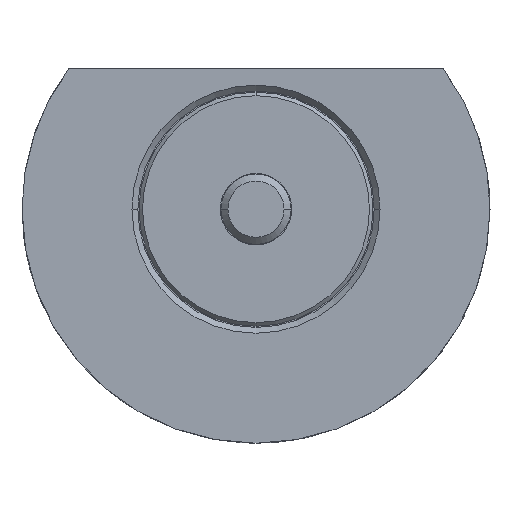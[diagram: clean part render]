
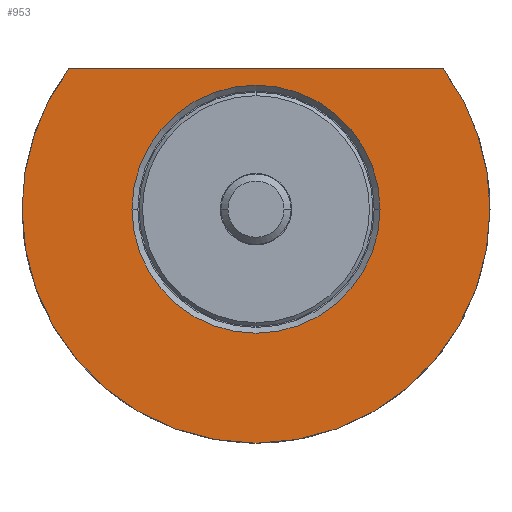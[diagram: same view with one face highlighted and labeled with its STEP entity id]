
A CAD part, front view. The second image highlights one B-rep face of the part: STEP entity #953.
In plain terms, the highlighted planar face has unit normal (0, -1, 0).
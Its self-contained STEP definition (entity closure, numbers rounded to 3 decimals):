
#20 = DIRECTION ( 'NONE',  ( -1., 0., 0. ) ) ;
#26 = VERTEX_POINT ( 'NONE', #725 ) ;
#60 = CIRCLE ( 'NONE', #222, 20. ) ;
#68 = VERTEX_POINT ( 'NONE', #1115 ) ;
#95 = DIRECTION ( 'NONE',  ( 0., 1., 0. ) ) ;
#118 = CARTESIAN_POINT ( 'NONE',  ( 0., -10., 0. ) ) ;
#124 = PLANE ( 'NONE',  #479 ) ;
#186 = VECTOR ( 'NONE', #1532, 1000. ) ;
#210 = ORIENTED_EDGE ( 'NONE', *, *, #1338, .T. ) ;
#222 = AXIS2_PLACEMENT_3D ( 'NONE', #1856, #810, #20 ) ;
#229 = AXIS2_PLACEMENT_3D ( 'NONE', #1540, #321, #702 ) ;
#238 = ORIENTED_EDGE ( 'NONE', *, *, #1359, .F. ) ;
#274 = VERTEX_POINT ( 'NONE', #1835 ) ;
#321 = DIRECTION ( 'NONE',  ( 0., 1., 0. ) ) ;
#404 = EDGE_LOOP ( 'NONE', ( #2175, #210, #2380, #238 ) ) ;
#479 = AXIS2_PLACEMENT_3D ( 'NONE', #1766, #1147, #2578 ) ;
#489 = CARTESIAN_POINT ( 'NONE',  ( 10.6, -10., 0. ) ) ;
#490 = EDGE_CURVE ( 'NONE', #2045, #1756, #2063, .T. ) ;
#503 = CARTESIAN_POINT ( 'NONE',  ( 0., -10., 0. ) ) ;
#508 = CARTESIAN_POINT ( 'NONE',  ( 0., -10., 0. ) ) ;
#678 = VERTEX_POINT ( 'NONE', #767 ) ;
#702 = DIRECTION ( 'NONE',  ( -1., 0., 0. ) ) ;
#714 = CARTESIAN_POINT ( 'NONE',  ( -10.6, -10., 0. ) ) ;
#725 = CARTESIAN_POINT ( 'NONE',  ( -16.001, -10., 11.999 ) ) ;
#767 = CARTESIAN_POINT ( 'NONE',  ( 20., -10., 0. ) ) ;
#810 = DIRECTION ( 'NONE',  ( 0., 1., 0. ) ) ;
#863 = AXIS2_PLACEMENT_3D ( 'NONE', #503, #95, #1325 ) ;
#883 = EDGE_CURVE ( 'NONE', #1756, #2045, #2024, .T. ) ;
#889 = EDGE_CURVE ( 'NONE', #68, #26, #1213, .T. ) ;
#903 = AXIS2_PLACEMENT_3D ( 'NONE', #508, #1714, #2363 ) ;
#936 = FACE_OUTER_BOUND ( 'NONE', #404, .T. ) ;
#953 = ADVANCED_FACE ( 'NONE', ( #1136, #936 ), #124, .T. ) ;
#1009 = DIRECTION ( 'NONE',  ( 0., 1., 0. ) ) ;
#1115 = CARTESIAN_POINT ( 'NONE',  ( -20., -10., 0. ) ) ;
#1136 = FACE_BOUND ( 'NONE', #2507, .T. ) ;
#1147 = DIRECTION ( 'NONE',  ( 0., -1., 0. ) ) ;
#1166 = CIRCLE ( 'NONE', #1462, 20. ) ;
#1176 = EDGE_CURVE ( 'NONE', #274, #678, #60, .T. ) ;
#1213 = CIRCLE ( 'NONE', #229, 20. ) ;
#1232 = DIRECTION ( 'NONE',  ( -1., 0., 0. ) ) ;
#1325 = DIRECTION ( 'NONE',  ( -1., 0., 0. ) ) ;
#1338 = EDGE_CURVE ( 'NONE', #274, #26, #1734, .T. ) ;
#1359 = EDGE_CURVE ( 'NONE', #678, #68, #1166, .T. ) ;
#1462 = AXIS2_PLACEMENT_3D ( 'NONE', #118, #1009, #1232 ) ;
#1521 = ORIENTED_EDGE ( 'NONE', *, *, #490, .T. ) ;
#1532 = DIRECTION ( 'NONE',  ( -1., 0., 0. ) ) ;
#1540 = CARTESIAN_POINT ( 'NONE',  ( 0., -10., 0. ) ) ;
#1714 = DIRECTION ( 'NONE',  ( 0., 1., 0. ) ) ;
#1734 = LINE ( 'NONE', #2562, #186 ) ;
#1756 = VERTEX_POINT ( 'NONE', #489 ) ;
#1766 = CARTESIAN_POINT ( 'NONE',  ( -10.6, -10., 0. ) ) ;
#1835 = CARTESIAN_POINT ( 'NONE',  ( 16.001, -10., 11.999 ) ) ;
#1855 = ORIENTED_EDGE ( 'NONE', *, *, #883, .T. ) ;
#1856 = CARTESIAN_POINT ( 'NONE',  ( 0., -10., 0. ) ) ;
#2024 = CIRCLE ( 'NONE', #863, 10.6 ) ;
#2045 = VERTEX_POINT ( 'NONE', #714 ) ;
#2063 = CIRCLE ( 'NONE', #903, 10.6 ) ;
#2175 = ORIENTED_EDGE ( 'NONE', *, *, #1176, .F. ) ;
#2363 = DIRECTION ( 'NONE',  ( -1., 0., 0. ) ) ;
#2380 = ORIENTED_EDGE ( 'NONE', *, *, #889, .F. ) ;
#2507 = EDGE_LOOP ( 'NONE', ( #1855, #1521 ) ) ;
#2562 = CARTESIAN_POINT ( 'NONE',  ( -10.6, -10., 11.999 ) ) ;
#2578 = DIRECTION ( 'NONE',  ( 1., 0., 0. ) ) ;
